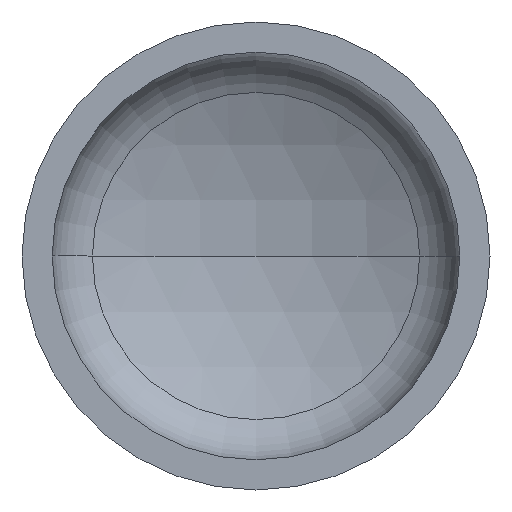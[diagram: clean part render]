
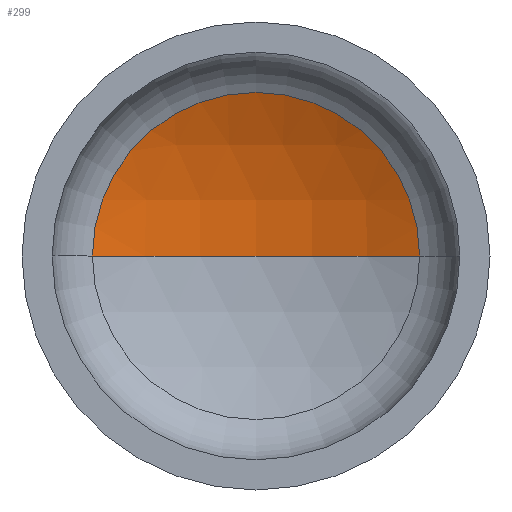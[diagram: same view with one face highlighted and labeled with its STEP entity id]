
A CAD part, front view. The second image highlights one B-rep face of the part: STEP entity #299.
In plain terms, the highlighted spherical face has radius 1440 mm.
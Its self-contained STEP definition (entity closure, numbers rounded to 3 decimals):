
#2 = AXIS2_PLACEMENT_3D ( 'NONE', #93, #398, #124 ) ;
#16 = EDGE_LOOP ( 'NONE', ( #118, #100, #29 ) ) ;
#17 = VERTEX_POINT ( 'NONE', #260 ) ;
#21 = AXIS2_PLACEMENT_3D ( 'NONE', #226, #170, #63 ) ;
#23 = AXIS2_PLACEMENT_3D ( 'NONE', #286, #114, #26 ) ;
#24 = SPHERICAL_SURFACE ( 'NONE', #2, 1440. ) ;
#25 = AXIS2_PLACEMENT_3D ( 'NONE', #195, #210, #361 ) ;
#26 = DIRECTION ( 'NONE',  ( -1., 0., 0. ) ) ;
#29 = ORIENTED_EDGE ( 'NONE', *, *, #86, .T. ) ;
#63 = DIRECTION ( 'NONE',  ( 1., 0., 0. ) ) ;
#86 = EDGE_CURVE ( 'NONE', #154, #17, #384, .T. ) ;
#87 = EDGE_CURVE ( 'NONE', #113, #154, #110, .T. ) ;
#88 = EDGE_CURVE ( 'NONE', #113, #17, #267, .T. ) ;
#93 = CARTESIAN_POINT ( 'NONE',  ( 0., -972.924, 0. ) ) ;
#100 = ORIENTED_EDGE ( 'NONE', *, *, #87, .T. ) ;
#110 = CIRCLE ( 'NONE', #23, 1440. ) ;
#113 = VERTEX_POINT ( 'NONE', #189 ) ;
#114 = DIRECTION ( 'NONE',  ( 0., 0., -1. ) ) ;
#118 = ORIENTED_EDGE ( 'NONE', *, *, #88, .F. ) ;
#124 = DIRECTION ( 'NONE',  ( -1., 0., 0. ) ) ;
#154 = VERTEX_POINT ( 'NONE', #283 ) ;
#170 = DIRECTION ( 'NONE',  ( 0., 0., 1. ) ) ;
#189 = CARTESIAN_POINT ( 'NONE',  ( 0., 467.076, 0. ) ) ;
#195 = CARTESIAN_POINT ( 'NONE',  ( 0., 322.364, 0. ) ) ;
#210 = DIRECTION ( 'NONE',  ( 0., -1., 0. ) ) ;
#226 = CARTESIAN_POINT ( 'NONE',  ( 0., -972.924, 0. ) ) ;
#260 = CARTESIAN_POINT ( 'NONE',  ( -629.15, 322.364, 0. ) ) ;
#267 = CIRCLE ( 'NONE', #21, 1440. ) ;
#283 = CARTESIAN_POINT ( 'NONE',  ( 629.15, 322.364, 0. ) ) ;
#286 = CARTESIAN_POINT ( 'NONE',  ( 0., -972.924, 0. ) ) ;
#299 = ADVANCED_FACE ( 'NONE', ( #364 ), #24, .F. ) ;
#361 = DIRECTION ( 'NONE',  ( 1., 0., 0. ) ) ;
#364 = FACE_OUTER_BOUND ( 'NONE', #16, .T. ) ;
#384 = CIRCLE ( 'NONE', #25, 629.15 ) ;
#398 = DIRECTION ( 'NONE',  ( 0., 0., -1. ) ) ;
